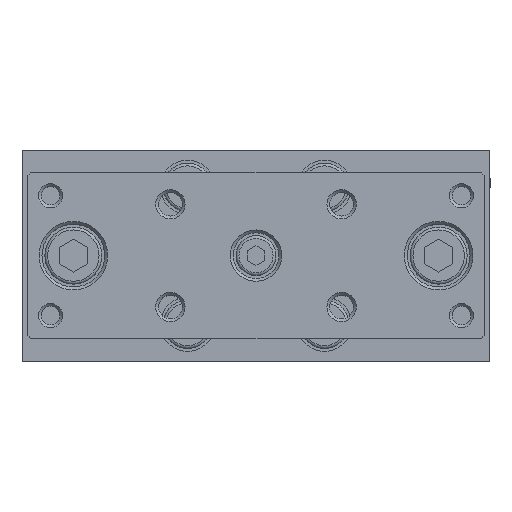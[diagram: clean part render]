
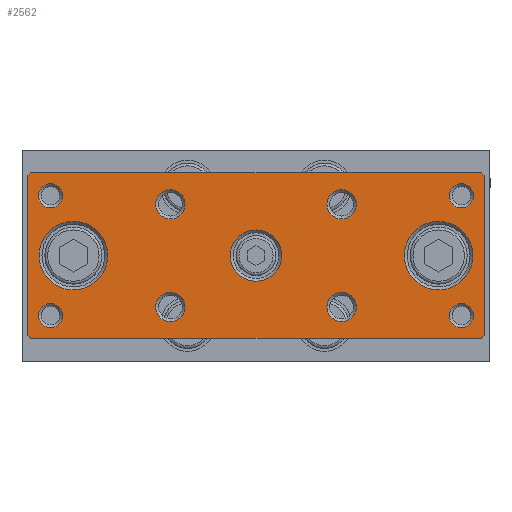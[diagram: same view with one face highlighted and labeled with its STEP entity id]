
A CAD part, top view. The second image highlights one B-rep face of the part: STEP entity #2562.
In plain terms, the highlighted planar face has unit normal (0, 0, 1).
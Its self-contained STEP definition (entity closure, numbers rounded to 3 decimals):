
#2366=CARTESIAN_POINT('',(-12.193,-7.317,94.5));
#2367=VERTEX_POINT('',#2366);
#2368=CARTESIAN_POINT('',(-14.76,-7.317,94.5));
#2369=DIRECTION('',(0.0,0.0,1.0));
#2370=DIRECTION('',(-1.0,0.0,0.0));
#2371=AXIS2_PLACEMENT_3D('',#2368,#2369,#2370);
#2372=CIRCLE('',#2371,2.567);
#2373=EDGE_CURVE('',#2367,#2367,#2372,.T.);
#2378=CARTESIAN_POINT('',(-39.76,1.683,94.5));
#2379=DIRECTION('',(0.0,0.0,1.0));
#2380=DIRECTION('',(1.0,0.0,0.0));
#2381=AXIS2_PLACEMENT_3D('',#2378,#2379,#2380);
#2382=PLANE('',#2381);
#2383=CARTESIAN_POINT('',(-39.76,15.683,94.5));
#2384=VERTEX_POINT('',#2383);
#2385=CARTESIAN_POINT('',(-39.26,16.183,94.5));
#2386=VERTEX_POINT('',#2385);
#2387=CARTESIAN_POINT('',(-39.76,15.683,94.5));
#2388=DIRECTION('',(0.707,0.707,0.0));
#2389=VECTOR('',#2388,0.707);
#2390=LINE('',#2387,#2389);
#2391=EDGE_CURVE('',#2384,#2386,#2390,.T.);
#2392=ORIENTED_EDGE('',*,*,#2391,.F.);
#2393=CARTESIAN_POINT('',(-39.76,-12.317,94.5));
#2394=VERTEX_POINT('',#2393);
#2395=CARTESIAN_POINT('',(-39.76,15.683,94.5));
#2396=DIRECTION('',(0.0,-1.0,0.0));
#2397=VECTOR('',#2396,28.);
#2398=LINE('',#2395,#2397);
#2399=EDGE_CURVE('',#2384,#2394,#2398,.T.);
#2400=ORIENTED_EDGE('',*,*,#2399,.T.);
#2401=CARTESIAN_POINT('',(-39.26,-12.817,94.5));
#2402=VERTEX_POINT('',#2401);
#2403=CARTESIAN_POINT('',(-39.26,-12.817,94.5));
#2404=DIRECTION('',(-0.707,0.707,0.0));
#2405=VECTOR('',#2404,0.707);
#2406=LINE('',#2403,#2405);
#2407=EDGE_CURVE('',#2402,#2394,#2406,.T.);
#2408=ORIENTED_EDGE('',*,*,#2407,.F.);
#2409=CARTESIAN_POINT('',(39.74,-12.817,94.5));
#2410=VERTEX_POINT('',#2409);
#2411=CARTESIAN_POINT('',(-39.26,-12.817,94.5));
#2412=DIRECTION('',(1.0,0.0,0.0));
#2413=VECTOR('',#2412,79.);
#2414=LINE('',#2411,#2413);
#2415=EDGE_CURVE('',#2402,#2410,#2414,.T.);
#2416=ORIENTED_EDGE('',*,*,#2415,.T.);
#2417=CARTESIAN_POINT('',(40.24,-12.317,94.5));
#2418=VERTEX_POINT('',#2417);
#2419=CARTESIAN_POINT('',(40.24,-12.317,94.5));
#2420=DIRECTION('',(-0.707,-0.707,0.0));
#2421=VECTOR('',#2420,0.707);
#2422=LINE('',#2419,#2421);
#2423=EDGE_CURVE('',#2418,#2410,#2422,.T.);
#2424=ORIENTED_EDGE('',*,*,#2423,.F.);
#2425=CARTESIAN_POINT('',(40.24,15.683,94.5));
#2426=VERTEX_POINT('',#2425);
#2427=CARTESIAN_POINT('',(40.24,-12.317,94.5));
#2428=DIRECTION('',(0.0,1.0,0.0));
#2429=VECTOR('',#2428,28.);
#2430=LINE('',#2427,#2429);
#2431=EDGE_CURVE('',#2418,#2426,#2430,.T.);
#2432=ORIENTED_EDGE('',*,*,#2431,.T.);
#2433=CARTESIAN_POINT('',(39.74,16.183,94.5));
#2434=VERTEX_POINT('',#2433);
#2435=CARTESIAN_POINT('',(39.74,16.183,94.5));
#2436=DIRECTION('',(0.707,-0.707,0.0));
#2437=VECTOR('',#2436,0.707);
#2438=LINE('',#2435,#2437);
#2439=EDGE_CURVE('',#2434,#2426,#2438,.T.);
#2440=ORIENTED_EDGE('',*,*,#2439,.F.);
#2441=CARTESIAN_POINT('',(39.74,16.183,94.5));
#2442=DIRECTION('',(-1.0,0.0,0.0));
#2443=VECTOR('',#2442,79.0);
#2444=LINE('',#2441,#2443);
#2445=EDGE_CURVE('',#2434,#2386,#2444,.T.);
#2446=ORIENTED_EDGE('',*,*,#2445,.T.);
#2447=EDGE_LOOP('',(#2392,#2400,#2408,#2416,#2424,#2432,#2440,#2446));
#2448=FACE_OUTER_BOUND('',#2447,.T.);
#2449=CARTESIAN_POINT('',(17.807,10.683,94.5));
#2450=VERTEX_POINT('',#2449);
#2451=CARTESIAN_POINT('',(15.24,10.683,94.5));
#2452=DIRECTION('',(0.0,0.0,1.0));
#2453=DIRECTION('',(-1.0,0.0,0.0));
#2454=AXIS2_PLACEMENT_3D('',#2451,#2452,#2453);
#2455=CIRCLE('',#2454,2.567);
#2456=EDGE_CURVE('',#2450,#2450,#2455,.T.);
#2457=ORIENTED_EDGE('',*,*,#2456,.F.);
#2458=EDGE_LOOP('',(#2457));
#2459=FACE_BOUND('',#2458,.T.);
#2460=CARTESIAN_POINT('',(-12.193,10.683,94.5));
#2461=VERTEX_POINT('',#2460);
#2462=CARTESIAN_POINT('',(-14.76,10.683,94.5));
#2463=DIRECTION('',(0.0,0.0,1.0));
#2464=DIRECTION('',(-1.0,0.0,0.0));
#2465=AXIS2_PLACEMENT_3D('',#2462,#2463,#2464);
#2466=CIRCLE('',#2465,2.567);
#2467=EDGE_CURVE('',#2461,#2461,#2466,.T.);
#2468=ORIENTED_EDGE('',*,*,#2467,.F.);
#2469=EDGE_LOOP('',(#2468));
#2470=FACE_BOUND('',#2469,.T.);
#2471=CARTESIAN_POINT('',(4.74,1.683,94.5));
#2472=VERTEX_POINT('',#2471);
#2473=CARTESIAN_POINT('',(0.24,1.683,94.5));
#2474=DIRECTION('',(0.0,0.0,1.0));
#2475=DIRECTION('',(-1.0,0.0,0.0));
#2476=AXIS2_PLACEMENT_3D('',#2473,#2474,#2475);
#2477=CIRCLE('',#2476,4.5);
#2478=EDGE_CURVE('',#2472,#2472,#2477,.T.);
#2479=ORIENTED_EDGE('',*,*,#2478,.F.);
#2480=EDGE_LOOP('',(#2479));
#2481=FACE_BOUND('',#2480,.T.);
#2482=CARTESIAN_POINT('',(-25.76,1.683,94.5));
#2483=VERTEX_POINT('',#2482);
#2484=CARTESIAN_POINT('',(-31.76,1.683,94.5));
#2485=DIRECTION('',(0.0,0.0,1.0));
#2486=DIRECTION('',(-1.0,0.0,0.0));
#2487=AXIS2_PLACEMENT_3D('',#2484,#2485,#2486);
#2488=CIRCLE('',#2487,6.);
#2489=EDGE_CURVE('',#2483,#2483,#2488,.T.);
#2490=ORIENTED_EDGE('',*,*,#2489,.F.);
#2491=EDGE_LOOP('',(#2490));
#2492=FACE_BOUND('',#2491,.T.);
#2493=CARTESIAN_POINT('',(38.24,1.683,94.5));
#2494=VERTEX_POINT('',#2493);
#2495=CARTESIAN_POINT('',(32.24,1.683,94.5));
#2496=DIRECTION('',(0.0,0.0,1.0));
#2497=DIRECTION('',(-1.0,0.0,0.0));
#2498=AXIS2_PLACEMENT_3D('',#2495,#2496,#2497);
#2499=CIRCLE('',#2498,6.);
#2500=EDGE_CURVE('',#2494,#2494,#2499,.T.);
#2501=ORIENTED_EDGE('',*,*,#2500,.F.);
#2502=EDGE_LOOP('',(#2501));
#2503=FACE_BOUND('',#2502,.T.);
#2504=CARTESIAN_POINT('',(38.361,-8.817,94.5));
#2505=VERTEX_POINT('',#2504);
#2506=CARTESIAN_POINT('',(36.24,-8.817,94.5));
#2507=DIRECTION('',(0.0,0.0,1.0));
#2508=DIRECTION('',(-1.0,0.0,0.0));
#2509=AXIS2_PLACEMENT_3D('',#2506,#2507,#2508);
#2510=CIRCLE('',#2509,2.121);
#2511=EDGE_CURVE('',#2505,#2505,#2510,.T.);
#2512=ORIENTED_EDGE('',*,*,#2511,.F.);
#2513=EDGE_LOOP('',(#2512));
#2514=FACE_BOUND('',#2513,.T.);
#2515=CARTESIAN_POINT('',(38.361,12.183,94.5));
#2516=VERTEX_POINT('',#2515);
#2517=CARTESIAN_POINT('',(36.24,12.183,94.5));
#2518=DIRECTION('',(0.0,0.0,1.0));
#2519=DIRECTION('',(-1.0,0.0,0.0));
#2520=AXIS2_PLACEMENT_3D('',#2517,#2518,#2519);
#2521=CIRCLE('',#2520,2.121);
#2522=EDGE_CURVE('',#2516,#2516,#2521,.T.);
#2523=ORIENTED_EDGE('',*,*,#2522,.F.);
#2524=EDGE_LOOP('',(#2523));
#2525=FACE_BOUND('',#2524,.T.);
#2526=CARTESIAN_POINT('',(-33.639,-8.817,94.5));
#2527=VERTEX_POINT('',#2526);
#2528=CARTESIAN_POINT('',(-35.76,-8.817,94.5));
#2529=DIRECTION('',(0.0,0.0,1.0));
#2530=DIRECTION('',(-1.0,0.0,0.0));
#2531=AXIS2_PLACEMENT_3D('',#2528,#2529,#2530);
#2532=CIRCLE('',#2531,2.121);
#2533=EDGE_CURVE('',#2527,#2527,#2532,.T.);
#2534=ORIENTED_EDGE('',*,*,#2533,.F.);
#2535=EDGE_LOOP('',(#2534));
#2536=FACE_BOUND('',#2535,.T.);
#2537=CARTESIAN_POINT('',(-33.639,12.183,94.5));
#2538=VERTEX_POINT('',#2537);
#2539=CARTESIAN_POINT('',(-35.76,12.183,94.5));
#2540=DIRECTION('',(0.0,0.0,1.0));
#2541=DIRECTION('',(-1.0,0.0,0.0));
#2542=AXIS2_PLACEMENT_3D('',#2539,#2540,#2541);
#2543=CIRCLE('',#2542,2.121);
#2544=EDGE_CURVE('',#2538,#2538,#2543,.T.);
#2545=ORIENTED_EDGE('',*,*,#2544,.F.);
#2546=EDGE_LOOP('',(#2545));
#2547=FACE_BOUND('',#2546,.T.);
#2548=CARTESIAN_POINT('',(17.807,-7.317,94.5));
#2549=VERTEX_POINT('',#2548);
#2550=CARTESIAN_POINT('',(15.24,-7.317,94.5));
#2551=DIRECTION('',(0.0,0.0,1.0));
#2552=DIRECTION('',(-1.0,0.0,0.0));
#2553=AXIS2_PLACEMENT_3D('',#2550,#2551,#2552);
#2554=CIRCLE('',#2553,2.567);
#2555=EDGE_CURVE('',#2549,#2549,#2554,.T.);
#2556=ORIENTED_EDGE('',*,*,#2555,.F.);
#2557=EDGE_LOOP('',(#2556));
#2558=FACE_BOUND('',#2557,.T.);
#2559=ORIENTED_EDGE('',*,*,#2373,.F.);
#2560=EDGE_LOOP('',(#2559));
#2561=FACE_BOUND('',#2560,.T.);
#2562=ADVANCED_FACE('',(#2448,#2459,#2470,#2481,#2492,#2503,#2514,#2525,#2536,#2547,#2558,#2561),#2382,.T.);
